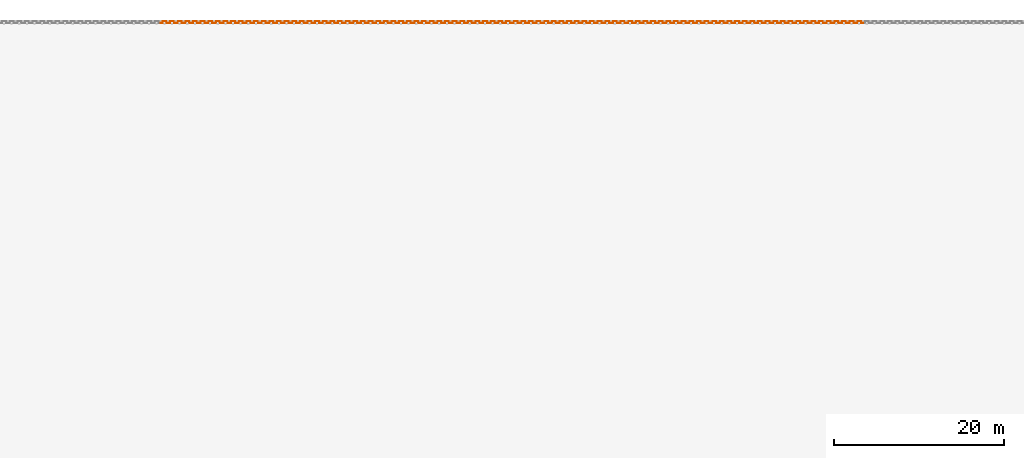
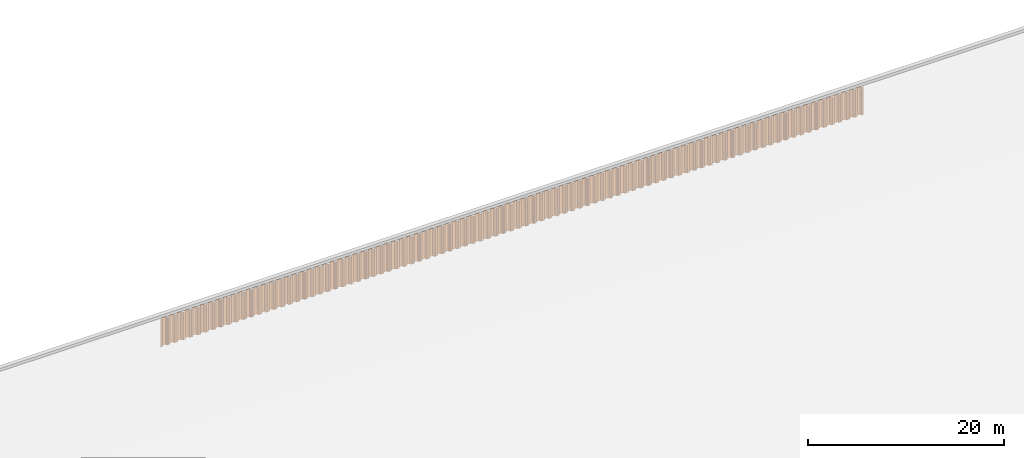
# One storey, part 19 of 32: 92 proxies.
"""IFC2X3 building model written with IfcOpenShell, lengths in millimetres."""

from ifc_helpers import new_model, entity, si_unit, converted_unit, derived_unit, direction, frame, frame_2d, origin, place, context, subcontext, project, spatial, polyline, circle_curve, parameter, trimmed, segment, composite_curve, outline, extrude, source, transform, mapped, type_object, type_shapes, element, save


model = new_model("IFC2X3")

# Units and contexts
model_context = context("Model", 3, precision=0.01, world=origin(), true_north=direction((6.12303176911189e-17, 1.0)))
body_context = subcontext(model_context, "Body", "Model", "MODEL_VIEW")
ifc_project = project(units=[si_unit("LENGTHUNIT", "METRE", prefix="MILLI"), si_unit("AREAUNIT", "SQUARE_METRE"), si_unit("VOLUMEUNIT", "CUBIC_METRE"), converted_unit("PLANEANGLEUNIT", "DEGREE", entity("IfcRatioMeasure", 0.0174532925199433), si_unit("PLANEANGLEUNIT", "RADIAN"), dimensions=[0, 0, 0, 0, 0, 0, 0]), si_unit("MASSUNIT", "GRAM", prefix="KILO"), derived_unit("MASSDENSITYUNIT", [(si_unit("MASSUNIT", "GRAM", prefix="KILO"), 1), (si_unit("LENGTHUNIT", "METRE"), -3)]), si_unit("TIMEUNIT", "SECOND"), si_unit("FREQUENCYUNIT", "HERTZ"), si_unit("THERMODYNAMICTEMPERATUREUNIT", "DEGREE_CELSIUS"), derived_unit("THERMALTRANSMITTANCEUNIT", [(si_unit("MASSUNIT", "GRAM", prefix="KILO"), 1), (si_unit("THERMODYNAMICTEMPERATUREUNIT", "KELVIN"), -1), (si_unit("TIMEUNIT", "SECOND"), -3)]), derived_unit("VOLUMETRICFLOWRATEUNIT", [(si_unit("LENGTHUNIT", "METRE"), 3), (si_unit("TIMEUNIT", "SECOND"), -1)]), si_unit("ELECTRICCURRENTUNIT", "AMPERE"), si_unit("ELECTRICVOLTAGEUNIT", "VOLT"), si_unit("POWERUNIT", "WATT"), si_unit("FORCEUNIT", "NEWTON", prefix="KILO"), si_unit("ILLUMINANCEUNIT", "LUX"), si_unit("LUMINOUSFLUXUNIT", "LUMEN"), si_unit("LUMINOUSINTENSITYUNIT", "CANDELA"), derived_unit("USERDEFINED", [(si_unit("MASSUNIT", "GRAM", prefix="KILO"), -1), (si_unit("LENGTHUNIT", "METRE"), -2), (si_unit("TIMEUNIT", "SECOND"), 3), (si_unit("LUMINOUSFLUXUNIT", "LUMEN"), 1)]), derived_unit("LINEARVELOCITYUNIT", [(si_unit("LENGTHUNIT", "METRE"), 1), (si_unit("TIMEUNIT", "SECOND"), -1)]), si_unit("PRESSUREUNIT", "PASCAL"), derived_unit("USERDEFINED", [(si_unit("LENGTHUNIT", "METRE"), -2), (si_unit("MASSUNIT", "GRAM", prefix="KILO"), 1), (si_unit("TIMEUNIT", "SECOND"), -2)])], contexts=[model_context])

# Site, building, storey
site_placement = place(None, origin())
site = spatial("IfcSite", under=ifc_project, at=site_placement, Name="Default", CompositionType="ELEMENT")
building_placement = place(site_placement, origin())
building = spatial("IfcBuilding", under=site, at=building_placement, CompositionType="ELEMENT")
storey_placement = place(building_placement, origin())
storey = spatial("IfcBuildingStorey", under=building, at=storey_placement, Name="矢板", CompositionType="ELEMENT", Elevation=0.0)

# Proxies
building_element_proxy_type = type_object("IfcBuildingElementProxyType", Name="鋼矢板10H型", PredefinedType="NOTDEFINED")
shared_shape = source(origin(), body_context, "Body", "SweptSolid", [
    extrude(outline(composite_curve([segment(trimmed(circle_curve(frame_2d((85.3662976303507, 306.644432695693), x_axis=(0.422618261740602, 0.906307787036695)), 13.885714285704), [parameter(24.9999999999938)], [parameter(90.0000000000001)], True, "PARAMETER"), True, "CONTINUOUS"), segment(polyline([(72.7815666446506, 312.512789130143), (9.8129512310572, 177.476157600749)]), True, "CONTINUOUS"), segment(trimmed(circle_curve(frame_2d((29.3891994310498, 168.347603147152), x_axis=(0.422618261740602, 0.906307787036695)), 21.6), [parameter(90.0000000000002)], [parameter(168.69006752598)], True, "PARAMETER"), True, "CONTINUOUS"), segment(polyline([(16.598697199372, 150.941769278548), (175.329723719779, 34.2998683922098)]), True, "CONTINUOUS"), segment(trimmed(circle_curve(frame_2d((168.93447260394, 25.596951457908), x_axis=(0.422618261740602, 0.906307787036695)), 10.7999999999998), [parameter(270.0)], [parameter(348.690067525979)], True, "PARAMETER"), False, "CONTINUOUS"), segment(polyline([(178.722596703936, 21.0326742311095), (18.2974003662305, -323.000269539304)]), True, "CONTINUOUS"), segment(trimmed(circle_curve(frame_2d((8.50927626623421, -318.435992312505), x_axis=(0.422618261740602, 0.906307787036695)), 10.8), [parameter(191.30993247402)], [parameter(269.999999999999)], True, "PARAMETER"), False, "CONTINUOUS"), segment(polyline([(5.95324328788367, -328.929166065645), (-185.429973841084, -282.310113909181)]), True, "CONTINUOUS"), segment(trimmed(circle_curve(frame_2d((-190.542039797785, -303.296461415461), x_axis=(0.422618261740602, 0.906307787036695)), 21.6000000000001), [parameter(11.3099324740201)], [parameter(90.0000000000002)], True, "PARAMETER"), True, "CONTINUOUS"), segment(polyline([(-210.118287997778, -294.167906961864), (-290.330886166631, -466.184378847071)]), True, "CONTINUOUS"), segment(trimmed(circle_curve(frame_2d((-270.754637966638, -475.312933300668), x_axis=(0.422618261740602, 0.906307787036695)), 21.6), [parameter(90.0000000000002)], [parameter(269.999999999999)], True, "PARAMETER"), True, "CONTINUOUS"), segment(polyline([(-251.178389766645, -484.441487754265), (-249.065298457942, -479.909948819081)]), True, "CONTINUOUS"), segment(polyline([(-249.065298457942, -479.909948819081), (-258.853422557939, -475.345671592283)]), True, "CONTINUOUS"), segment(polyline([(-258.853422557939, -475.345671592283), (-260.966513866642, -479.877210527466)]), True, "CONTINUOUS"), segment(trimmed(circle_curve(frame_2d((-270.754637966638, -475.312933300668), x_axis=(0.422618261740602, 0.906307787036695)), 10.8), [parameter(90.0000000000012)], [parameter(270.0)], True, "PARAMETER"), False, "CONTINUOUS"), segment(polyline([(-280.542762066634, -470.748656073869), (-200.330163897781, -298.732184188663)]), True, "CONTINUOUS"), segment(trimmed(circle_curve(frame_2d((-190.542039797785, -303.296461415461), x_axis=(0.422618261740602, 0.906307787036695)), 10.8), [parameter(11.3099324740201)], [parameter(89.9999999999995)], True, "PARAMETER"), False, "CONTINUOUS"), segment(polyline([(-187.986006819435, -292.803287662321), (3.39721030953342, -339.422339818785)]), True, "CONTINUOUS"), segment(trimmed(circle_curve(frame_2d((8.50927626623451, -318.435992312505), x_axis=(0.422618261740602, 0.906307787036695)), 21.6), [parameter(191.30993247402)], [parameter(270.0)], True, "PARAMETER"), True, "CONTINUOUS"), segment(polyline([(28.0855244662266, -327.564546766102), (188.510720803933, 16.4683970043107)]), True, "CONTINUOUS"), segment(trimmed(circle_curve(frame_2d((168.93447260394, 25.5969514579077), x_axis=(0.422618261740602, 0.906307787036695)), 21.6), [parameter(270.0)], [parameter(348.69006752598)], True, "PARAMETER"), True, "CONTINUOUS"), segment(polyline([(181.724974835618, 43.0027853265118), (22.9939483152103, 159.644686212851)]), True, "CONTINUOUS"), segment(trimmed(circle_curve(frame_2d((29.3891994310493, 168.347603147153), x_axis=(0.422618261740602, 0.906307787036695)), 10.7999999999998), [parameter(89.9999999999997)], [parameter(168.690067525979)], True, "PARAMETER"), False, "CONTINUOUS"), segment(polyline([(19.6010753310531, 172.911880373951), (82.5696907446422, 307.948511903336)]), True, "CONTINUOUS"), segment(trimmed(circle_curve(frame_2d((85.3662976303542, 306.64443269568), x_axis=(0.422618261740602, 0.906307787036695)), 3.08571428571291), [parameter(25.0000000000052)], [parameter(90.0000000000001)], True, "PARAMETER"), False, "CONTINUOUS"), segment(polyline([(85.3662976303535, 309.730146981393), (122.220231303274, 309.730146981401)]), True, "CONTINUOUS"), segment(trimmed(circle_curve(frame_2d((122.220231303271, 323.615861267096), x_axis=(0.422618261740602, 0.906307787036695)), 13.8857142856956), [parameter(205.000000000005)], [parameter(270.0)], True, "PARAMETER"), True, "CONTINUOUS"), segment(polyline([(134.804962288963, 317.747504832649), (141.079261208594, 331.202782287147)]), True, "CONTINUOUS"), segment(trimmed(circle_curve(frame_2d((121.503013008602, 340.331336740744), x_axis=(0.422618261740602, 0.906307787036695)), 21.6), [parameter(270.0)], [parameter(90.0000000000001)], True, "PARAMETER"), True, "CONTINUOUS"), segment(polyline([(101.926764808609, 349.459891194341), (99.8136734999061, 344.928352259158)]), True, "CONTINUOUS"), segment(polyline([(99.8136734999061, 344.928352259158), (109.601797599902, 340.364075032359)]), True, "CONTINUOUS"), segment(polyline([(109.601797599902, 340.364075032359), (111.714888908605, 344.895613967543)]), True, "CONTINUOUS"), segment(trimmed(circle_curve(frame_2d((121.503013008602, 340.331336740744), x_axis=(0.422618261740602, 0.906307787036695)), 10.8), [parameter(270.0)], [parameter(89.9999999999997)], True, "PARAMETER"), False, "CONTINUOUS"), segment(polyline([(131.291137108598, 335.767059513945), (125.01683818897, 322.311782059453)]), True, "CONTINUOUS"), segment(trimmed(circle_curve(frame_2d((122.220231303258, 323.615861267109), x_axis=(0.422618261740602, 0.906307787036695)), 3.08571428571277), [parameter(204.999999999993)], [parameter(270.0)], True, "PARAMETER"), False, "CONTINUOUS"), segment(polyline([(122.220231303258, 320.530146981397), (85.3662976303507, 320.530146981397)]), True, "CONTINUOUS")], self_intersect=False)), frame((95.205667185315, -48.8888888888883, -3500.0), z_axis=(0.0, 0.0, -1.0), x_axis=(0.4226182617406, 0.906307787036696, 0.0)), (0.0, 0.0, -1.0), 3500.0),
])
type_shapes(building_element_proxy_type, [shared_shape])
for number, where in (
    (1, (61897.4999999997, 28702.0, 7600.0)),
    (2, (60997.4999999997, 28702.0, 7600.0)),
    (3, (60097.4999999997, 28702.0, 7600.0)),
    (4, (59197.4999999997, 28702.0, 7600.0)),
    (5, (58297.4999999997, 28702.0, 7600.0)),
    (6, (57397.4999999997, 28702.0, 7600.0)),
    (7, (56497.4999999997, 28702.0, 7600.0)),
    (8, (55597.4999999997, 28702.0, 7600.0)),
    (9, (54697.4999999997, 28702.0, 7600.0)),
    (10, (53797.4999999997, 28702.0, 7600.0)),
    (11, (52897.4999999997, 28702.0, 7600.0)),
    (12, (51997.4999999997, 28702.0, 7600.0)),
    (13, (51097.4999999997, 28702.0, 7600.0)),
    (14, (50197.4999999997, 28702.0, 7600.0)),
    (15, (49297.4999999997, 28702.0, 7600.0)),
    (16, (48397.4999999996, 28702.0, 7600.0)),
    (17, (47497.4999999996, 28702.0, 7600.0)),
    (18, (46597.4999999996, 28702.0, 7600.0)),
    (19, (45697.4999999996, 28702.0, 7600.0)),
    (20, (44797.4999999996, 28702.0, 7600.0)),
    (21, (43897.4999999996, 28702.0, 7600.0)),
    (22, (42997.4999999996, 28702.0, 7600.0)),
    (23, (42097.4999999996, 28702.0, 7600.0)),
    (24, (41197.4999999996, 28702.0, 7600.0)),
    (25, (40297.4999999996, 28702.0, 7600.0)),
    (26, (39397.4999999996, 28702.0, 7600.0)),
    (27, (38497.4999999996, 28702.0, 7600.0)),
    (28, (37597.4999999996, 28702.0, 7600.0)),
    (29, (36697.4999999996, 28702.0, 7600.0)),
    (30, (35797.4999999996, 28702.0, 7600.0)),
    (31, (34897.4999999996, 28702.0, 7600.0)),
    (32, (33997.4999999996, 28702.0, 7600.0)),
    (33, (33097.4999999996, 28702.0, 7600.0)),
    (34, (32197.4999999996, 28702.0, 7600.0)),
    (35, (31297.4999999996, 28702.0, 7600.0)),
    (36, (30397.4999999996, 28702.0, 7600.0)),
    (37, (29497.4999999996, 28702.0, 7600.0)),
    (38, (28597.4999999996, 28702.0, 7600.0)),
    (39, (27697.4999999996, 28702.0, 7600.0)),
    (40, (26797.4999999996, 28702.0, 7600.0)),
    (41, (25897.4999999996, 28702.0, 7600.0)),
    (42, (24997.4999999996, 28702.0, 7600.0)),
    (43, (24097.4999999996, 28702.0, 7600.0)),
    (44, (23197.4999999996, 28702.0, 7600.0)),
    (45, (22297.4999999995, 28702.0, 7600.0)),
    (46, (21397.4999999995, 28702.0, 7600.0)),
    (47, (20497.4999999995, 28702.0, 7600.0)),
    (48, (19597.4999999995, 28702.0, 7600.0)),
    (49, (18697.4999999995, 28702.0, 7600.0)),
    (50, (17797.4999999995, 28702.0, 7600.0)),
    (51, (16897.4999999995, 28702.0, 7600.0)),
    (52, (15997.4999999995, 28702.0, 7600.0)),
    (53, (15097.4999999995, 28702.0, 7600.0)),
    (54, (14197.4999999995, 28702.0, 7600.0)),
    (55, (13297.4999999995, 28702.0, 7600.0)),
    (56, (12397.4999999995, 28702.0, 7600.0)),
    (57, (11497.4999999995, 28702.0, 7600.0)),
    (58, (10597.4999999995, 28702.0, 7600.0)),
    (59, (9697.4999999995, 28702.0, 7600.0)),
    (60, (8797.4999999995, 28702.0, 7600.0)),
    (61, (7897.4999999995, 28702.0, 7600.0)),
    (62, (6997.49999999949, 28702.0, 7600.0)),
    (63, (6097.49999999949, 28702.0, 7600.0)),
    (64, (5197.49999999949, 28702.0, 7600.0)),
    (65, (4297.49999999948, 28702.0, 7600.0)),
    (66, (3397.49999999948, 28702.0, 7600.0)),
    (67, (2497.49999999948, 28702.0, 7600.0)),
    (68, (1597.49999999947, 28702.0, 7600.0)),
    (69, (697.499999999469, 28702.0, 7600.0)),
    (70, (-202.500000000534, 28702.0, 7600.0)),
    (71, (-1102.50000000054, 28702.0, 7600.0)),
    (72, (-2002.50000000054, 28702.0, 7600.0)),
    (73, (-2902.50000000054, 28702.0, 7600.0)),
    (74, (-3802.50000000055, 28702.0, 7600.0)),
    (75, (-4702.50000000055, 28702.0, 7600.0)),
    (76, (-5602.50000000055, 28702.0, 7600.0)),
    (77, (-6502.50000000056, 28702.0, 7600.0)),
    (78, (-7402.50000000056, 28702.0, 7600.0)),
    (79, (-8302.50000000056, 28702.0, 7600.0)),
    (80, (-9202.50000000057, 28702.0, 7600.0)),
    (81, (-10102.5000000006, 28702.0, 7600.0)),
    (82, (-11002.5000000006, 28702.0, 7600.0)),
    (83, (-11902.5000000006, 28702.0, 7600.0)),
    (84, (-12802.5000000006, 28702.0, 7600.0)),
    (85, (-13702.5000000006, 28702.0, 7600.0)),
    (86, (-14602.5000000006, 28702.0, 7600.0)),
    (87, (-15502.5000000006, 28702.0, 7600.0)),
    (88, (-16402.5000000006, 28702.0, 7600.0)),
    (89, (-17302.5000000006, 28702.0, 7600.0)),
    (90, (-18202.5000000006, 28702.0, 7600.0)),
    (91, (-19102.5000000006, 28702.0, 7600.0)),
    (92, (-20002.5000000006, 28702.0, 7600.0)),
):
    element("IfcBuildingElementProxy", number, at=place(storey_placement, frame(where)), inside=storey, type_object=building_element_proxy_type, Name="鋼矢板10H型:鋼矢板10H型", ObjectType="鋼矢板10H型:鋼矢板10H型", context=body_context, shape_type="MappedRepresentation", body=[
        mapped(shared_shape, transform((0.0, 0.0, 0.0), scale=1.0)),
    ])

save(model, "model.ifc")
